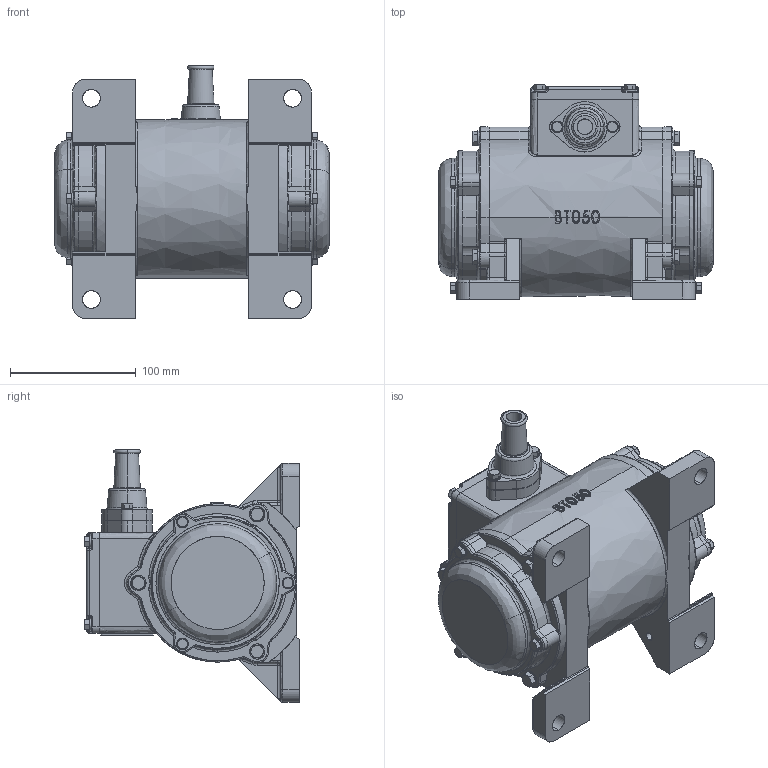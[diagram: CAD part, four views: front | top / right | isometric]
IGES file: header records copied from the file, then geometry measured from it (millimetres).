
Start section: SolidWorks IGES file using analytic representation for surfaces
Global section: file name: V:\WORK\08133\HP 寸法図\振動モータ\KM10S-2PD\IGS_STEPファイル\KM10S-2PD.IGS; native system: SolidWorks 2018; preprocessor: SolidWorks 2018; author: n-udagawa; date: 230213.144032; units: millimetre
Bounding box: 218 x 170.68 x 201 mm (x, y, z)
Surface area: 168638 mm2 (no closed solid volume)
Topology: 0 solids, 0 shells, 1162 faces, 20178 edges, 22999 vertices
Faces by surface type: bspline 1136, revolution 26
